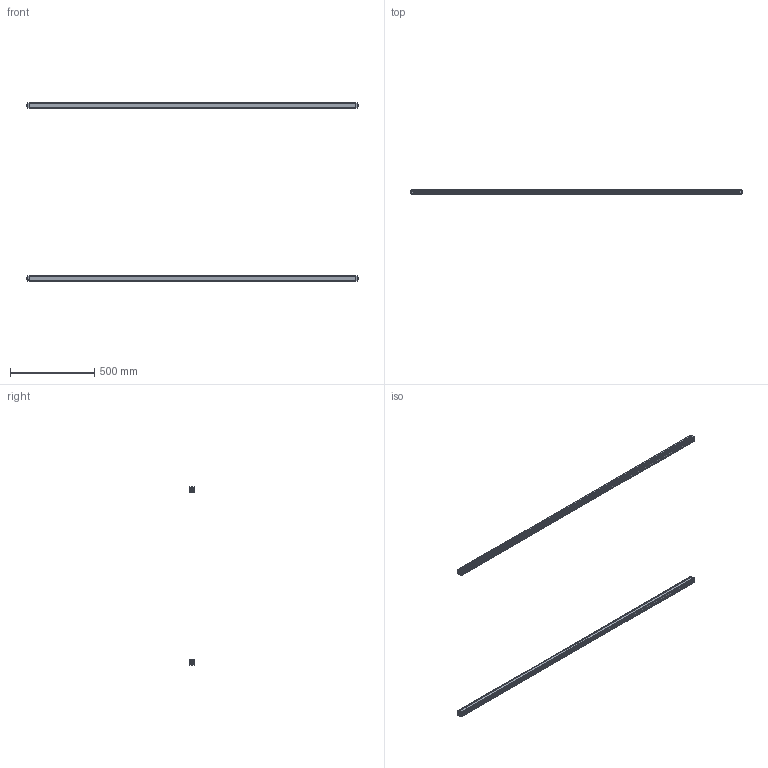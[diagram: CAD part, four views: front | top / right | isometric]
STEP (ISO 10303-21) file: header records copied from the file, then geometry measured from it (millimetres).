
FILE_DESCRIPTION(/* description */ (''),/* implementation_level */ '2;1');
FILE_NAME(/* name */ 'THS20-？.stp',/* time_stamp */ '2023-12-26T13:48:59+08:00',/* author */ (''),/* organization */ (''),/* preprocessor_version */ 'ST-DEVELOPER v16',/* originating_system */ 'SIEMENS PLM Software NX 11.0',/* authorisation */ '');
FILE_SCHEMA (('AP203_CONFIGURATION_CONTROLLED_3D_DESIGN_OF_MECHANICAL_PARTS_AND_ASSEMBLIES_MIM_LF { 1 0 10303 403 2 1 2}'));
Length unit declared in the file: millimetre
Products named in the file (10): 16; 14; 12; 13; 102; 101; 11; ASM0002_ASM; 0000_ASM; THS20-52--_stp
Assembly tree (10 placements, depth 4):
  THS20-52--_stp
    0000_ASM  x2
      11
      101
      102
      13
      12
      ASM0002_ASM
        14
        16
Bounding box: 1972 x 30.3 x 1058.6 mm (x, y, z)
Volume: 1211662.9 mm3; surface area: 1289755.2 mm2
Topology: 10 solids, 14 shells, 1080 faces, 3010 edges, 1986 vertices
Faces by surface type: plane 764, cylinder 288, cone 28
Entity records: 18484 total; most frequent: CARTESIAN_POINT 3097, ORIENTED_EDGE 3006, DIRECTION 2915, EDGE_CURVE 1505, LINE 1173, VECTOR 1173, VERTEX_POINT 993, AXIS2_PLACEMENT_3D 871
